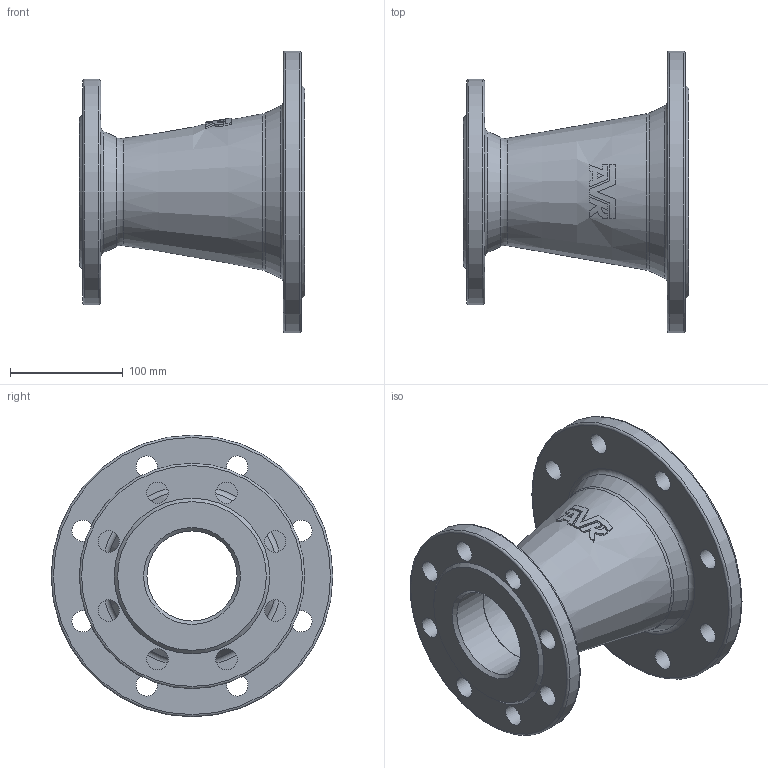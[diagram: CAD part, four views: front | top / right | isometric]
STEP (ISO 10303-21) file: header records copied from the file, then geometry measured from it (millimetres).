
FILE_DESCRIPTION (( 'STEP AP203' ), '1' );
FILE_NAME ('O_712_2210_DN125_DN80_1X_REV01.step', '2024-08-07T11:05:04', ( '' ), ( '' ), 'SwSTEP 2.0', 'SolidWorks 2022', '' );
FILE_SCHEMA (( 'CONFIG_CONTROL_DESIGN' ));
Length unit declared in the file: millimetre
Products named in the file (1): O_712_2210_DN125_DN80_1X_REV01
Bounding box: 200 x 250 x 250 mm (x, y, z)
Volume: 1457357.3 mm3; surface area: 269131.3 mm2
Topology: 1 solids, 1 shells, 85 faces, 228 edges, 153 vertices
Faces by surface type: plane 41, cylinder 22, cone 12, torus 10
Full cylindrical faces by diameter (mm): 19 x16, 80 x1, 125 x1, 200 x1, 250 x1
Entity records: 2550 total; most frequent: CARTESIAN_POINT 573, DIRECTION 393, ORIENTED_EDGE 342, AXIS2_PLACEMENT_3D 178, EDGE_CURVE 171, EDGE_LOOP 165, VERTEX_POINT 134, FACE_OUTER_BOUND 115
